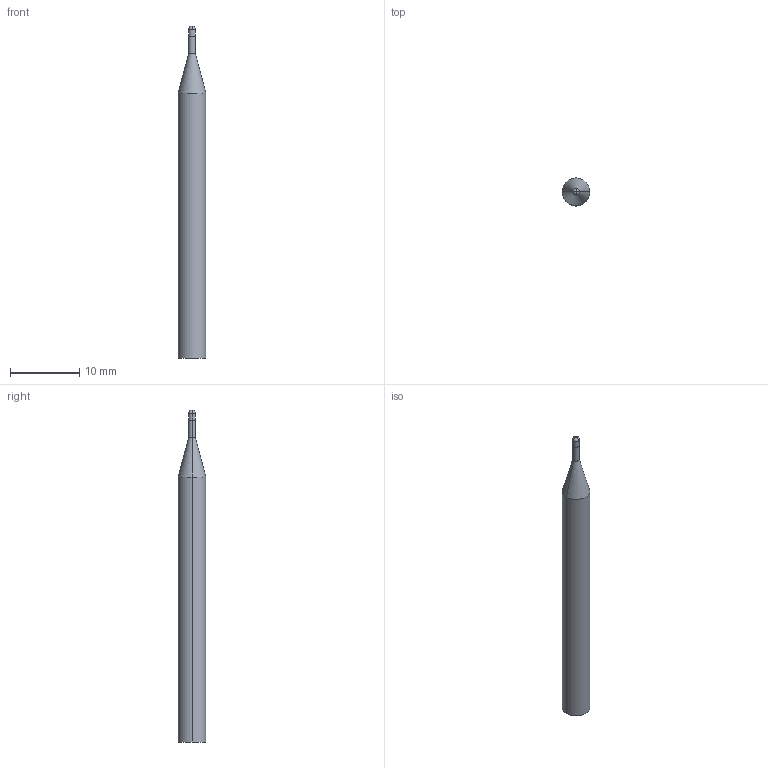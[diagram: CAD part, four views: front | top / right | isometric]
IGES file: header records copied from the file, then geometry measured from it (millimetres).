
Start section: 3D InterOp IGES (v. 2020 1.0.1), Spatial Corp. Copyright (c) 1999-2017.
Global section: file name: WZF28796_1_4.igs; native system: Spatial Corp.; preprocessor: 3D InterOp GENERIC/IGES 3.0; author: Noname; organization: Noname; date: 20201007.093848; units: metre
Bounding box: 4 x 4 x 48 mm (x, y, z)
Surface area: 552 mm2 (no closed solid volume)
Topology: 0 solids, 0 shells, 14 faces, 56 edges, 52 vertices
Faces by surface type: revolution 12, extrusion 2
